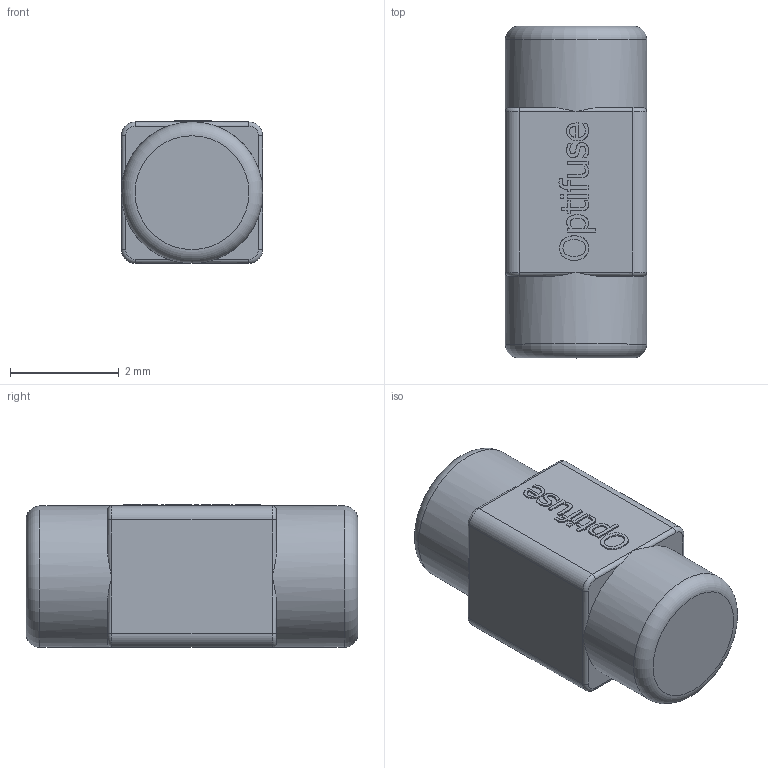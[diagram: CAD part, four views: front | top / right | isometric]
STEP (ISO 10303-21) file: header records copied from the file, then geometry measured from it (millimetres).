
FILE_DESCRIPTION(/* description */ (''),/* implementation_level */ '2;1');
FILE_NAME(/* name */ 'C:\Users\Hani\Desktop\work\FCM-R\FCM-R.stp',/* time_stamp */ '2022-02-01T08:35:36-08:00',/* author */ ('Hani'),/* organization */ (''),/* preprocessor_version */ 'ST-DEVELOPER v17',/* originating_system */ 'Autodesk Inventor 2019',/* authorisation */ '');
FILE_SCHEMA (('AUTOMOTIVE_DESIGN { 1 0 10303 214 3 1 1 }'));
Length unit declared in the file: inch
Products named in the file (1): FCM-R
Bounding box: 2.6 x 6.1 x 2.63 mm (x, y, z)
Volume: 36.5 mm3; surface area: 66.9 mm2
Topology: 1 solids, 1 shells, 182 faces, 480 edges, 312 vertices
Faces by surface type: plane 83, bspline 67, cylinder 22, torus 10
Full cylindrical faces by diameter (mm): 2.6 x2
Entity records: 6248 total; most frequent: CARTESIAN_POINT 2095, ORIENTED_EDGE 960, DIRECTION 612, EDGE_CURVE 480, VERTEX_POINT 312, LINE 280, VECTOR 280, EDGE_LOOP 194
